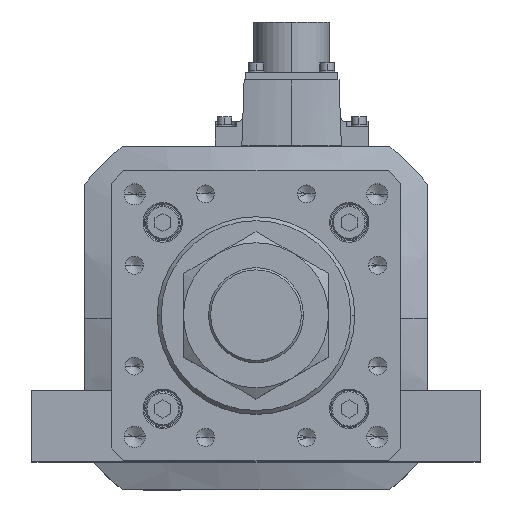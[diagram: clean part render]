
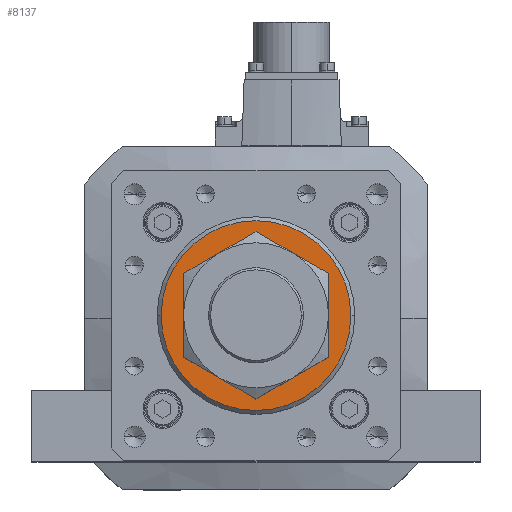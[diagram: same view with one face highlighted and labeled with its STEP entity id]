
A CAD part, top view. The second image highlights one B-rep face of the part: STEP entity #8137.
In plain terms, the highlighted planar face has unit normal (0, 0, 1).
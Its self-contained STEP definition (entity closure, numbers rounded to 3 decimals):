
#28 = DIRECTION ( 'NONE',  ( 0., 0., 1. ) ) ;
#427 = AXIS2_PLACEMENT_3D ( 'NONE', #3903, #7023, #36850 ) ;
#544 = CARTESIAN_POINT ( 'NONE',  ( -23., 0., 296. ) ) ;
#958 = CARTESIAN_POINT ( 'NONE',  ( 23., 0., 296. ) ) ;
#3903 = CARTESIAN_POINT ( 'NONE',  ( 0., 0., 296. ) ) ;
#3906 = CARTESIAN_POINT ( 'NONE',  ( 0., 0., 296. ) ) ;
#6376 = DIRECTION ( 'NONE',  ( 1., 0., 0. ) ) ;
#6895 = DIRECTION ( 'NONE',  ( 0., 0., 1. ) ) ;
#7023 = DIRECTION ( 'NONE',  ( 0., 0., 1. ) ) ;
#7778 = ORIENTED_EDGE ( 'NONE', *, *, #11613, .T. ) ;
#8137 = ADVANCED_FACE ( 'NONE', ( #15024, #22938 ), #29865, .T. ) ;
#8906 = EDGE_LOOP ( 'NONE', ( #33914, #27701 ) ) ;
#9481 = CARTESIAN_POINT ( 'NONE',  ( 0., 0., 296. ) ) ;
#10225 = VERTEX_POINT ( 'NONE', #544 ) ;
#11097 = AXIS2_PLACEMENT_3D ( 'NONE', #21275, #27281, #24797 ) ;
#11613 = EDGE_CURVE ( 'NONE', #10225, #19948, #33455, .T. ) ;
#14270 = CARTESIAN_POINT ( 'NONE',  ( 36., 0., 296. ) ) ;
#14386 = CARTESIAN_POINT ( 'NONE',  ( -36., 0., 296. ) ) ;
#14879 = AXIS2_PLACEMENT_3D ( 'NONE', #3906, #6895, #29301 ) ;
#15024 = FACE_BOUND ( 'NONE', #24326, .T. ) ;
#15026 = DIRECTION ( 'NONE',  ( 1., 0., 0. ) ) ;
#18520 = DIRECTION ( 'NONE',  ( 0., 0., -1. ) ) ;
#19248 = EDGE_CURVE ( 'NONE', #27936, #33687, #29306, .T. ) ;
#19948 = VERTEX_POINT ( 'NONE', #958 ) ;
#21142 = CARTESIAN_POINT ( 'NONE',  ( 0., 0., 296. ) ) ;
#21275 = CARTESIAN_POINT ( 'NONE',  ( 0., 0., 296. ) ) ;
#22547 = CIRCLE ( 'NONE', #11097, 23. ) ;
#22938 = FACE_OUTER_BOUND ( 'NONE', #8906, .T. ) ;
#24326 = EDGE_LOOP ( 'NONE', ( #27215, #7778 ) ) ;
#24797 = DIRECTION ( 'NONE',  ( 1., 0., 0. ) ) ;
#27215 = ORIENTED_EDGE ( 'NONE', *, *, #38255, .T. ) ;
#27281 = DIRECTION ( 'NONE',  ( 0., 0., -1. ) ) ;
#27701 = ORIENTED_EDGE ( 'NONE', *, *, #19248, .T. ) ;
#27936 = VERTEX_POINT ( 'NONE', #14270 ) ;
#29301 = DIRECTION ( 'NONE',  ( 1., 0., 0. ) ) ;
#29306 = CIRCLE ( 'NONE', #14879, 36. ) ;
#29641 = AXIS2_PLACEMENT_3D ( 'NONE', #9481, #18520, #15026 ) ;
#29865 = PLANE ( 'NONE',  #30086 ) ;
#30086 = AXIS2_PLACEMENT_3D ( 'NONE', #21142, #28, #6376 ) ;
#30947 = CIRCLE ( 'NONE', #427, 36. ) ;
#33455 = CIRCLE ( 'NONE', #29641, 23. ) ;
#33687 = VERTEX_POINT ( 'NONE', #14386 ) ;
#33914 = ORIENTED_EDGE ( 'NONE', *, *, #37729, .T. ) ;
#36850 = DIRECTION ( 'NONE',  ( 1., 0., 0. ) ) ;
#37729 = EDGE_CURVE ( 'NONE', #33687, #27936, #30947, .T. ) ;
#38255 = EDGE_CURVE ( 'NONE', #19948, #10225, #22547, .T. ) ;
